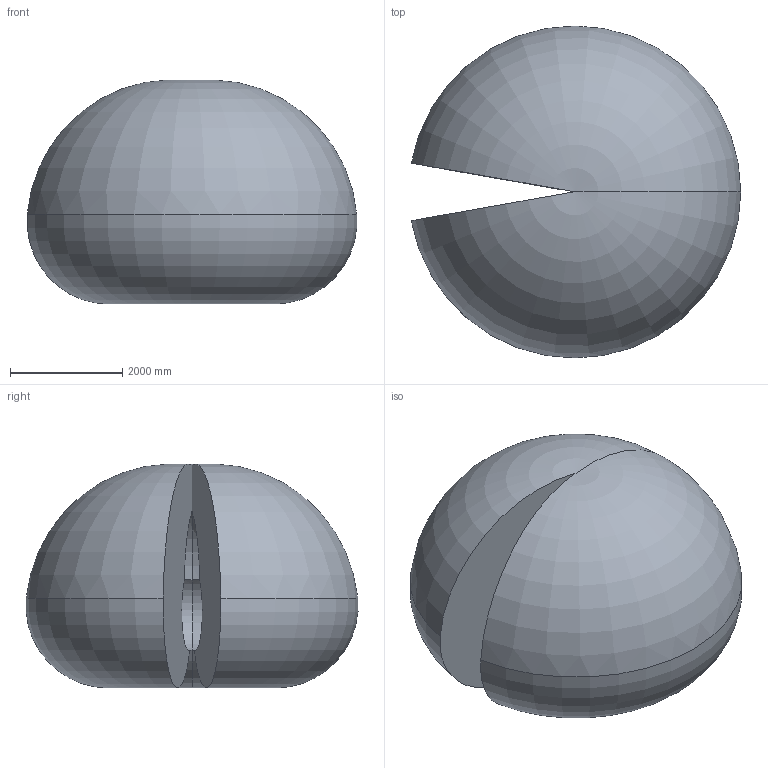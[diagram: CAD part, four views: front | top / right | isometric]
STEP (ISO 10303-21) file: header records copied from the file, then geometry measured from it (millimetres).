
FILE_DESCRIPTION (( 'STEP AP203' ), '1' );
FILE_NAME ('IRB6700_300_working-space-forward.STEP', '2014-08-27T11:28:52', ( 'ABB' ), ( 'ABB' ), 'SwSTEP 2.0', 'SolidWorks 2012', '' );
FILE_SCHEMA (( 'CONFIG_CONTROL_DESIGN' ));
Length unit declared in the file: millimetre
Products named in the file (1): IRB6700_300_working-space-forward
Bounding box: 5879.35 x 5924.35 x 3996.41 mm (x, y, z)
Volume: 70845524132.7 mm3; surface area: 117444664 mm2
Topology: 1 solids, 1 shells, 10 faces, 23 edges, 11 vertices
Faces by surface type: torus 8, plane 2
Entity records: 338 total; most frequent: DIRECTION 59, CARTESIAN_POINT 41, ORIENTED_EDGE 38, AXIS2_PLACEMENT_3D 29, EDGE_CURVE 19, CIRCLE 18, VERTEX_POINT 11, ADVANCED_FACE 10
